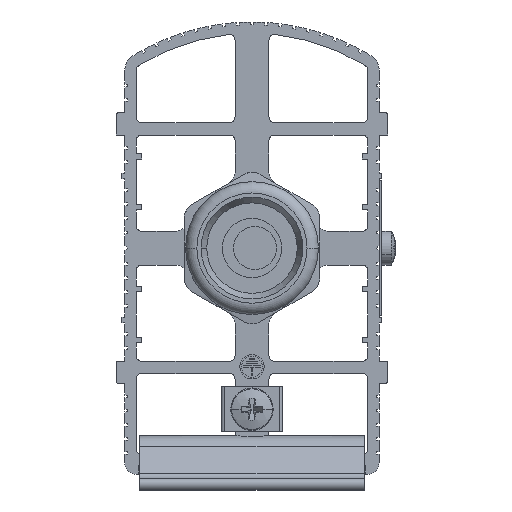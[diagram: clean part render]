
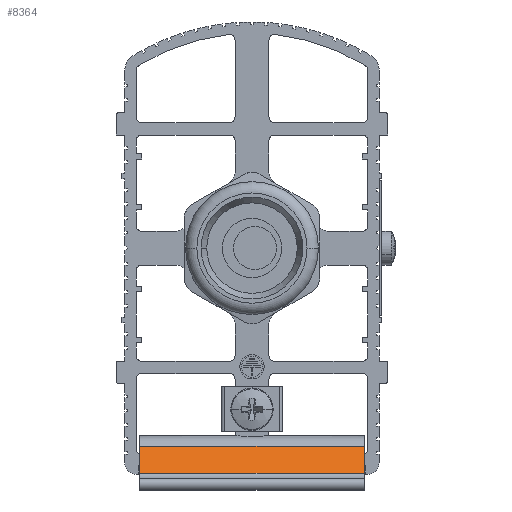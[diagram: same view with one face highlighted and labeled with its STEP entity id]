
A CAD part, front view. The second image highlights one B-rep face of the part: STEP entity #8364.
In plain terms, the highlighted planar face has unit normal (0, -0.866, 0.5).
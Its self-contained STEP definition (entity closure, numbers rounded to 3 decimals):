
#215 = DIRECTION ( 'NONE',  ( 0., -0.5, -0.866 ) ) ;
#1267 = CARTESIAN_POINT ( 'NONE',  ( -19.9, -6.004, -39.8 ) ) ;
#2085 = CARTESIAN_POINT ( 'NONE',  ( 19.9, -6.004, -39.8 ) ) ;
#2291 = DIRECTION ( 'NONE',  ( 0., -0.5, -0.866 ) ) ;
#2390 = EDGE_CURVE ( 'NONE', #18910, #18447, #2738, .T. ) ;
#2738 = LINE ( 'NONE', #17792, #12878 ) ;
#5140 = PLANE ( 'NONE',  #22978 ) ;
#5646 = ORIENTED_EDGE ( 'NONE', *, *, #20128, .F. ) ;
#5849 = EDGE_CURVE ( 'NONE', #19672, #18447, #18310, .T. ) ;
#6036 = CARTESIAN_POINT ( 'NONE',  ( 19.9, -3.291, -35.1 ) ) ;
#6712 = DIRECTION ( 'NONE',  ( -1., 0., 0. ) ) ;
#7405 = VECTOR ( 'NONE', #6712, 1000. ) ;
#8364 = ADVANCED_FACE ( 'NONE', ( #23299 ), #5140, .F. ) ;
#8478 = CARTESIAN_POINT ( 'NONE',  ( -19.9, -3.291, -35.1 ) ) ;
#8846 = LINE ( 'NONE', #24943, #28251 ) ;
#11378 = ORIENTED_EDGE ( 'NONE', *, *, #31048, .T. ) ;
#11649 = CARTESIAN_POINT ( 'NONE',  ( 19.9, -6.004, -39.8 ) ) ;
#12878 = VECTOR ( 'NONE', #215, 1000. ) ;
#13397 = EDGE_LOOP ( 'NONE', ( #15640, #27650, #5646, #11378 ) ) ;
#13873 = LINE ( 'NONE', #2085, #26253 ) ;
#15147 = CARTESIAN_POINT ( 'NONE',  ( 19.9, -6.004, -39.8 ) ) ;
#15640 = ORIENTED_EDGE ( 'NONE', *, *, #2390, .T. ) ;
#17645 = DIRECTION ( 'NONE',  ( 0., -0.5, -0.866 ) ) ;
#17792 = CARTESIAN_POINT ( 'NONE',  ( -19.9, -6.004, -39.8 ) ) ;
#18310 = LINE ( 'NONE', #11649, #7405 ) ;
#18447 = VERTEX_POINT ( 'NONE', #1267 ) ;
#18910 = VERTEX_POINT ( 'NONE', #8478 ) ;
#19672 = VERTEX_POINT ( 'NONE', #15147 ) ;
#20128 = EDGE_CURVE ( 'NONE', #26790, #19672, #13873, .T. ) ;
#22744 = DIRECTION ( 'NONE',  ( 0., 0.866, -0.5 ) ) ;
#22978 = AXIS2_PLACEMENT_3D ( 'NONE', #30224, #22744, #17645 ) ;
#23299 = FACE_OUTER_BOUND ( 'NONE', #13397, .T. ) ;
#24943 = CARTESIAN_POINT ( 'NONE',  ( 19.9, -3.291, -35.1 ) ) ;
#25150 = DIRECTION ( 'NONE',  ( -1., 0., 0. ) ) ;
#26253 = VECTOR ( 'NONE', #2291, 1000. ) ;
#26790 = VERTEX_POINT ( 'NONE', #6036 ) ;
#27650 = ORIENTED_EDGE ( 'NONE', *, *, #5849, .F. ) ;
#28251 = VECTOR ( 'NONE', #25150, 1000. ) ;
#30224 = CARTESIAN_POINT ( 'NONE',  ( 19.9, -6.004, -39.8 ) ) ;
#31048 = EDGE_CURVE ( 'NONE', #26790, #18910, #8846, .T. ) ;
